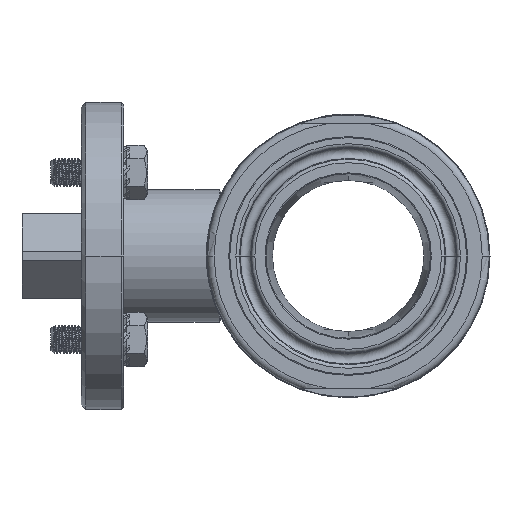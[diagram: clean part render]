
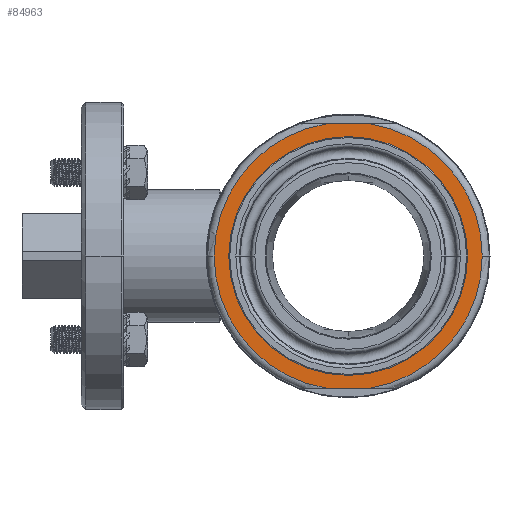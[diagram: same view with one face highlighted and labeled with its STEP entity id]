
A CAD part, left-side view. The second image highlights one B-rep face of the part: STEP entity #84963.
In plain terms, the highlighted planar face has unit normal (-1, 0, 0).
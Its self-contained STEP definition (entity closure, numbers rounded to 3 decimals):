
#84026=DIRECTION('',(0.,1.,0.));
#84027=VECTOR('',#84026,8.882);
#84028=CARTESIAN_POINT('',(-37.,-4.441,-28.));
#84029=LINE('',#84028,#84027);
#84033=DIRECTION('',(0.,1.,0.));
#84034=VECTOR('',#84033,8.882);
#84035=CARTESIAN_POINT('',(-37.,-4.441,28.));
#84036=LINE('',#84035,#84034);
#84040=CARTESIAN_POINT('',(-37.,0.,0.));
#84041=DIRECTION('',(-1.,0.,0.));
#84042=DIRECTION('',(0.,1.,0.));
#84043=AXIS2_PLACEMENT_3D('',#84040,#84041,#84042);
#84072=CARTESIAN_POINT('',(-37.,0.,0.));
#84073=DIRECTION('',(-1.,0.,0.));
#84074=DIRECTION('',(0.,-1.,0.));
#84075=AXIS2_PLACEMENT_3D('',#84072,#84073,#84074);
#84591=CARTESIAN_POINT('',(-37.,0.,0.));
#84592=DIRECTION('',(-1.,0.,0.));
#84593=DIRECTION('',(0.,-0.157,-0.988));
#84594=AXIS2_PLACEMENT_3D('',#84591,#84592,#84593);
#84637=CARTESIAN_POINT('',(-37.,0.,0.));
#84638=DIRECTION('',(-1.,0.,0.));
#84639=DIRECTION('',(0.,-1.,0.));
#84640=AXIS2_PLACEMENT_3D('',#84637,#84638,#84639);
#84689=CARTESIAN_POINT('',(-37.,0.,0.));
#84690=DIRECTION('',(-1.,0.,0.));
#84691=DIRECTION('',(0.,0.157,0.988));
#84692=AXIS2_PLACEMENT_3D('',#84689,#84690,#84691);
#84727=CARTESIAN_POINT('',(-37.,0.,0.));
#84728=DIRECTION('',(-1.,0.,0.));
#84729=DIRECTION('',(0.,1.,0.));
#84730=AXIS2_PLACEMENT_3D('',#84727,#84728,#84729);
#84830=CARTESIAN_POINT('',(-37.,-23.15,0.));
#84831=CARTESIAN_POINT('',(-37.,23.15,0.));
#84832=VERTEX_POINT('',#84830);
#84833=VERTEX_POINT('',#84831);
#84898=CARTESIAN_POINT('',(-37.,-28.35,0.));
#84899=CARTESIAN_POINT('',(-37.,-4.441,28.));
#84900=VERTEX_POINT('',#84898);
#84901=VERTEX_POINT('',#84899);
#84906=CARTESIAN_POINT('',(-37.,-4.441,-28.));
#84907=VERTEX_POINT('',#84906);
#84910=CARTESIAN_POINT('',(-37.,4.441,28.));
#84911=CARTESIAN_POINT('',(-37.,28.35,0.));
#84912=VERTEX_POINT('',#84910);
#84913=VERTEX_POINT('',#84911);
#84918=CARTESIAN_POINT('',(-37.,4.441,-28.));
#84919=VERTEX_POINT('',#84918);
#84938=CARTESIAN_POINT('',(-37.,0.,0.));
#84939=DIRECTION('',(-1.,0.,0.));
#84940=DIRECTION('',(0.,1.,0.));
#84941=AXIS2_PLACEMENT_3D('',#84938,#84939,#84940);
#84942=PLANE('',#84941);
#84944=ORIENTED_EDGE('',*,*,#84943,.T.);
#84946=ORIENTED_EDGE('',*,*,#84945,.F.);
#84948=ORIENTED_EDGE('',*,*,#84947,.F.);
#84950=ORIENTED_EDGE('',*,*,#84949,.F.);
#84952=ORIENTED_EDGE('',*,*,#84951,.F.);
#84954=ORIENTED_EDGE('',*,*,#84953,.F.);
#84955=EDGE_LOOP('',(#84944,#84946,#84948,#84950,#84952,#84954));
#84956=FACE_OUTER_BOUND('',#84955,.F.);
#84958=ORIENTED_EDGE('',*,*,#84957,.T.);
#84960=ORIENTED_EDGE('',*,*,#84959,.T.);
#84961=EDGE_LOOP('',(#84958,#84960));
#84962=FACE_BOUND('',#84961,.F.);
#84963=ADVANCED_FACE('',(#84956,#84962),#84942,.T.);
#84044=CIRCLE('',#84043,23.15);
#84076=CIRCLE('',#84075,23.15);
#84595=CIRCLE('',#84594,28.35);
#84641=CIRCLE('',#84640,28.35);
#84693=CIRCLE('',#84692,28.35);
#84731=CIRCLE('',#84730,28.35);
#84943=EDGE_CURVE('',#84907,#84919,#84029,.T.);
#84945=EDGE_CURVE('',#84913,#84919,#84731,.T.);
#84947=EDGE_CURVE('',#84912,#84913,#84693,.T.);
#84949=EDGE_CURVE('',#84901,#84912,#84036,.T.);
#84951=EDGE_CURVE('',#84900,#84901,#84641,.T.);
#84953=EDGE_CURVE('',#84907,#84900,#84595,.T.);
#84957=EDGE_CURVE('',#84833,#84832,#84044,.T.);
#84959=EDGE_CURVE('',#84832,#84833,#84076,.T.);
